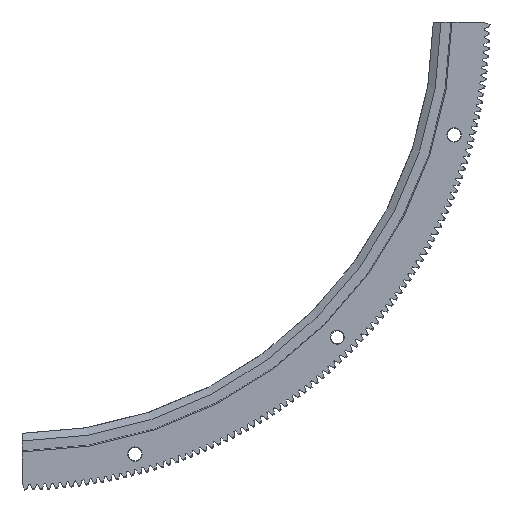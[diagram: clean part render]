
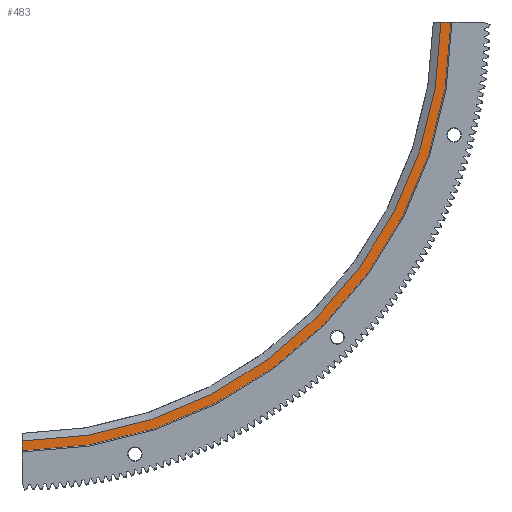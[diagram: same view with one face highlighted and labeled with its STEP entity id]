
A CAD part, front view. The second image highlights one B-rep face of the part: STEP entity #483.
In plain terms, the highlighted planar face has unit normal (0, -1, 0).
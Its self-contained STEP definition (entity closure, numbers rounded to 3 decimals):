
#483 = ADVANCED_FACE( '', ( #1504 ), #1505, .T. );
#1504 = FACE_OUTER_BOUND( '', #2710, .T. );
#1505 = PLANE( '', #2711 );
#2710 = EDGE_LOOP( '', ( #7072, #7073, #7074, #7075 ) );
#2711 = AXIS2_PLACEMENT_3D( '', #7076, #7077, #7078 );
#7072 = ORIENTED_EDGE( '', *, *, #10037, .T. );
#7073 = ORIENTED_EDGE( '', *, *, #9378, .T. );
#7074 = ORIENTED_EDGE( '', *, *, #8393, .F. );
#7075 = ORIENTED_EDGE( '', *, *, #8388, .T. );
#7076 = CARTESIAN_POINT( '', ( 0., 9.5, -216.164 ) );
#7077 = DIRECTION( '', ( 0., -1., 0. ) );
#7078 = DIRECTION( '', ( 0., 0., -1. ) );
#8388 = EDGE_CURVE( '', #10157, #10155, #10158, .T. );
#8393 = EDGE_CURVE( '', #10157, #10166, #10167, .T. );
#9378 = EDGE_CURVE( '', #12122, #10166, #12123, .T. );
#10037 = EDGE_CURVE( '', #10155, #12122, #12967, .T. );
#10155 = VERTEX_POINT( '', #13102 );
#10157 = VERTEX_POINT( '', #13105 );
#10158 = LINE( '', #13106, #13107 );
#10166 = VERTEX_POINT( '', #13131 );
#10167 = CIRCLE( '', #13132, 216.164 );
#12122 = VERTEX_POINT( '', #15878 );
#12123 = LINE( '', #15879, #15880 );
#12967 = CIRCLE( '', #17749, 221.85 );
#13102 = CARTESIAN_POINT( '', ( 2., 9.5, -221.841 ) );
#13105 = CARTESIAN_POINT( '', ( 2., 9.5, -216.155 ) );
#13106 = CARTESIAN_POINT( '', ( 2., 9.5, -216.164 ) );
#13107 = VECTOR( '', #17853, 1000. );
#13131 = CARTESIAN_POINT( '', ( 216.155, 9.5, -2. ) );
#13132 = AXIS2_PLACEMENT_3D( '', #17855, #17856, #17857 );
#15878 = CARTESIAN_POINT( '', ( 221.841, 9.5, -2. ) );
#15879 = CARTESIAN_POINT( '', ( 0., 9.5, -2. ) );
#15880 = VECTOR( '', #19260, 1000. );
#17749 = AXIS2_PLACEMENT_3D( '', #19740, #19741, #19742 );
#17853 = DIRECTION( '', ( 0., 0., -1. ) );
#17855 = CARTESIAN_POINT( '', ( 0., 9.5, 0. ) );
#17856 = DIRECTION( '', ( 0., -1., 0. ) );
#17857 = DIRECTION( '', ( 0., 0., -1. ) );
#19260 = DIRECTION( '', ( -1., 0., 0. ) );
#19740 = CARTESIAN_POINT( '', ( 0., 9.5, 0. ) );
#19741 = DIRECTION( '', ( 0., -1., 0. ) );
#19742 = DIRECTION( '', ( 0., 0., -1. ) );
